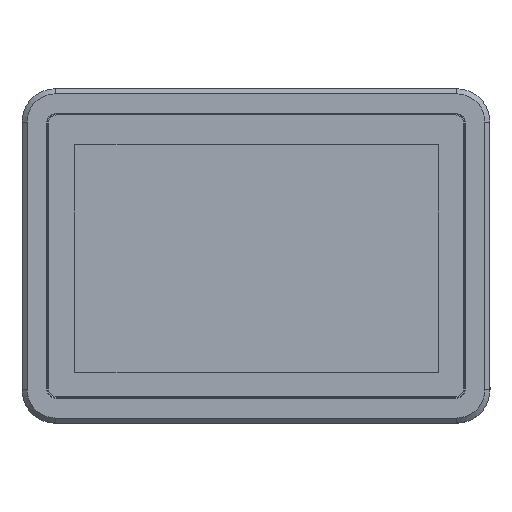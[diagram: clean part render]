
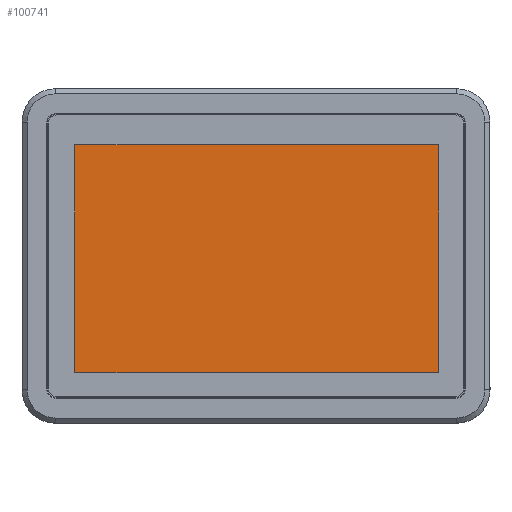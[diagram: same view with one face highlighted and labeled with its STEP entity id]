
A CAD part, top view. The second image highlights one B-rep face of the part: STEP entity #100741.
In plain terms, the highlighted planar face has unit normal (0, 0, 1).
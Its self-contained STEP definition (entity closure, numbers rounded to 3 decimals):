
#4503=PLANE('',#105411);
#9243=FACE_OUTER_BOUND('',#15040,.T.);
#15040=EDGE_LOOP('',(#85520,#85521,#85522,#85523));
#28445=LINE('',#173032,#38419);
#28446=LINE('',#173034,#38420);
#28447=LINE('',#173036,#38421);
#28448=LINE('',#173037,#38422);
#38419=VECTOR('',#120937,1000.);
#38420=VECTOR('',#120938,1000.);
#38421=VECTOR('',#120939,1000.);
#38422=VECTOR('',#120940,1000.);
#48135=VERTEX_POINT('',#173030);
#48136=VERTEX_POINT('',#173031);
#48137=VERTEX_POINT('',#173033);
#48138=VERTEX_POINT('',#173035);
#61087=EDGE_CURVE('',#48135,#48136,#28445,.T.);
#61088=EDGE_CURVE('',#48136,#48137,#28446,.T.);
#61089=EDGE_CURVE('',#48137,#48138,#28447,.T.);
#61090=EDGE_CURVE('',#48138,#48135,#28448,.T.);
#85520=ORIENTED_EDGE('',*,*,#61087,.T.);
#85521=ORIENTED_EDGE('',*,*,#61088,.T.);
#85522=ORIENTED_EDGE('',*,*,#61089,.T.);
#85523=ORIENTED_EDGE('',*,*,#61090,.T.);
#100741=ADVANCED_FACE('',(#9243),#4503,.F.);
#105411=AXIS2_PLACEMENT_3D('',#173029,#120935,#120936);
#120935=DIRECTION('center_axis',(0.,0.,-1.));
#120936=DIRECTION('ref_axis',(1.,0.,0.));
#120937=DIRECTION('',(0.,1.,0.));
#120938=DIRECTION('',(-1.,0.,0.));
#120939=DIRECTION('',(0.,-1.,0.));
#120940=DIRECTION('',(1.,0.,0.));
#173029=CARTESIAN_POINT('Origin',(124.38,84.365,14.9));
#173030=CARTESIAN_POINT('',(109.35,-69.865,14.9));
#173031=CARTESIAN_POINT('',(109.35,66.535,14.9));
#173032=CARTESIAN_POINT('',(109.35,66.535,14.9));
#173033=CARTESIAN_POINT('',(-108.35,66.535,14.9));
#173034=CARTESIAN_POINT('',(-108.35,66.535,14.9));
#173035=CARTESIAN_POINT('',(-108.35,-69.865,14.9));
#173036=CARTESIAN_POINT('',(-108.35,-69.865,14.9));
#173037=CARTESIAN_POINT('',(109.35,-69.865,14.9));
